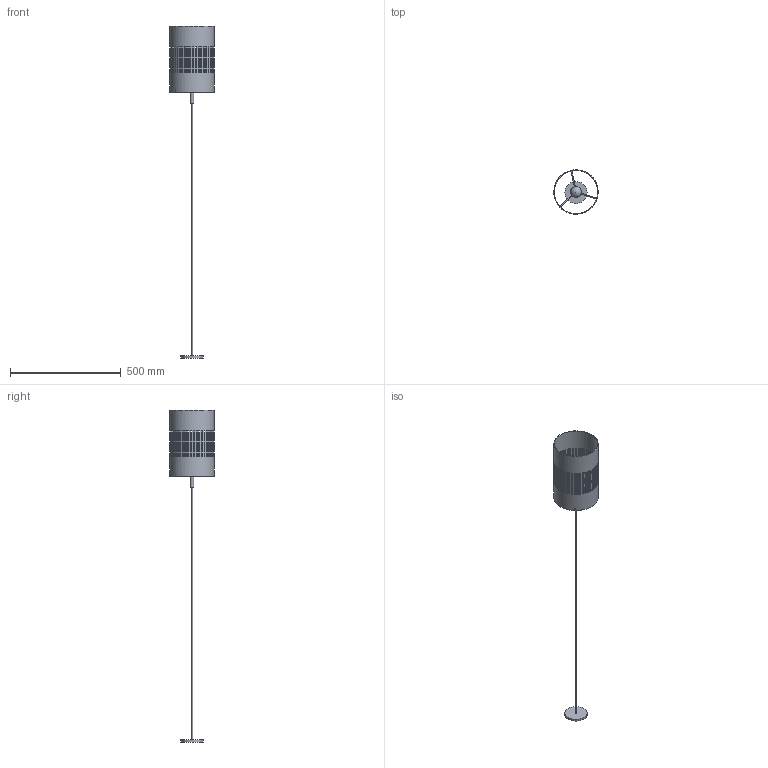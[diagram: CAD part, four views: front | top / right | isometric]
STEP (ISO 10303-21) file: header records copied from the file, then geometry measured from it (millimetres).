
FILE_DESCRIPTION(/* description */ (''),/* implementation_level */ '2;1');
FILE_NAME(/* name */ 'D:\TK Lighting\2021\_Bogard\Bogard Black 3214.stp',/* time_stamp */ '2021-03-01T15:33:22+01:00',/* author */ ('Admin'),/* organization */ (''),/* preprocessor_version */ 'ST-DEVELOPER v16.5',/* originating_system */ 'Autodesk Inventor 2017',/* authorisation */ '');
FILE_SCHEMA (('AUTOMOTIVE_DESIGN { 1 0 10303 214 3 1 1 }'));
Products named in the file (3): Bogard Black 3214; Zawiesie 3214; Klosz Bogard Black
Assembly tree (2 placements, depth 2):
  Bogard Black 3214
    Zawiesie 3214
    Klosz Bogard Black
Bounding box: 199.98 x 199.96 x 1502 mm (x, y, z)
Volume: 480950.6 mm3; surface area: 439024.1 mm2
Topology: 3 solids, 3 shells, 2378 faces, 7104 edges, 4736 vertices
Faces by surface type: plane 2363, cylinder 13, sphere 2
Full cylindrical faces by diameter (mm): 5 x4, 10 x1, 15 x1, 24 x1, 26 x2, 30 x1, 100 x1, 196 x1, 200 x1
Entity records: 83165 total; most frequent: CARTESIAN_POINT 14391, DIRECTION 14212, ORIENTED_EDGE 14164, EDGE_CURVE 7081, AXIS2_PLACEMENT_3D 4754, VERTEX_POINT 4729, LINE 4704, VECTOR 4704
